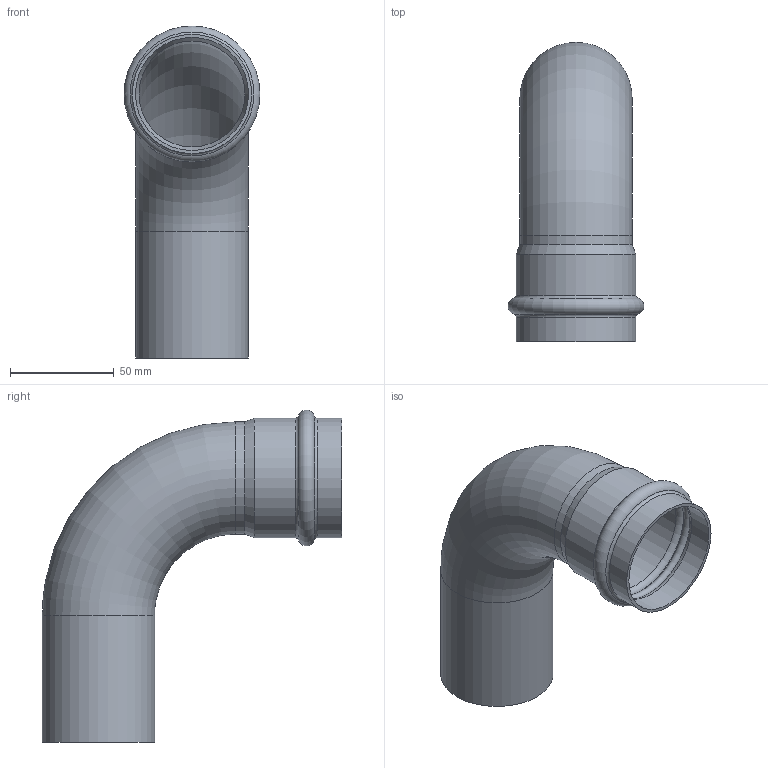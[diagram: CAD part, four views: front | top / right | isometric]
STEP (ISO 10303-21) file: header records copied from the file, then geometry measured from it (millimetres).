
FILE_DESCRIPTION(('STEP AP203'), '1');
FILE_NAME('VTi.950.I.005454', '', ('UNSPECIFIED'), ('UNSPECIFIED'), 'C3D Converter', 'C3D Toolkit', '');
FILE_SCHEMA(('CONFIG_CONTROL_DESIGN'));
Length unit declared in the file: millimetre
Products named in the file (1): ВР.302661.030.000 СБ
Bounding box: 65.38 x 144 x 159.69 mm (x, y, z)
Volume: 57496.8 mm3; surface area: 74999.4 mm2
Topology: 1 solids, 1 shells, 21 faces, 44 edges, 25 vertices
Faces by surface type: torus 9, cylinder 8, plane 2, cone 2
Full cylindrical faces by diameter (mm): 51 x2, 54 x2, 54.4 x2, 57.4 x2
Entity records: 508 total; most frequent: DIRECTION 94, CARTESIAN_POINT 72, ORIENTED_EDGE 50, AXIS2_PLACEMENT_3D 47, EDGE_LOOP 42, FACE_OUTER_BOUND 30, EDGE_CURVE 25, VERTEX_POINT 25
